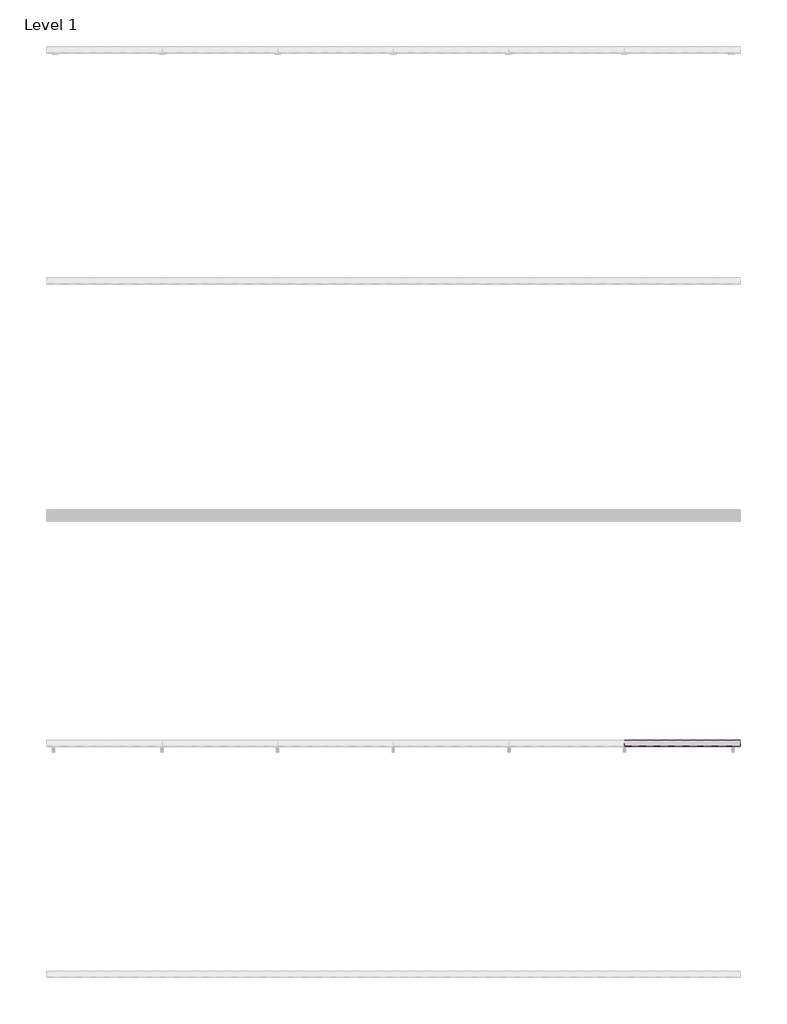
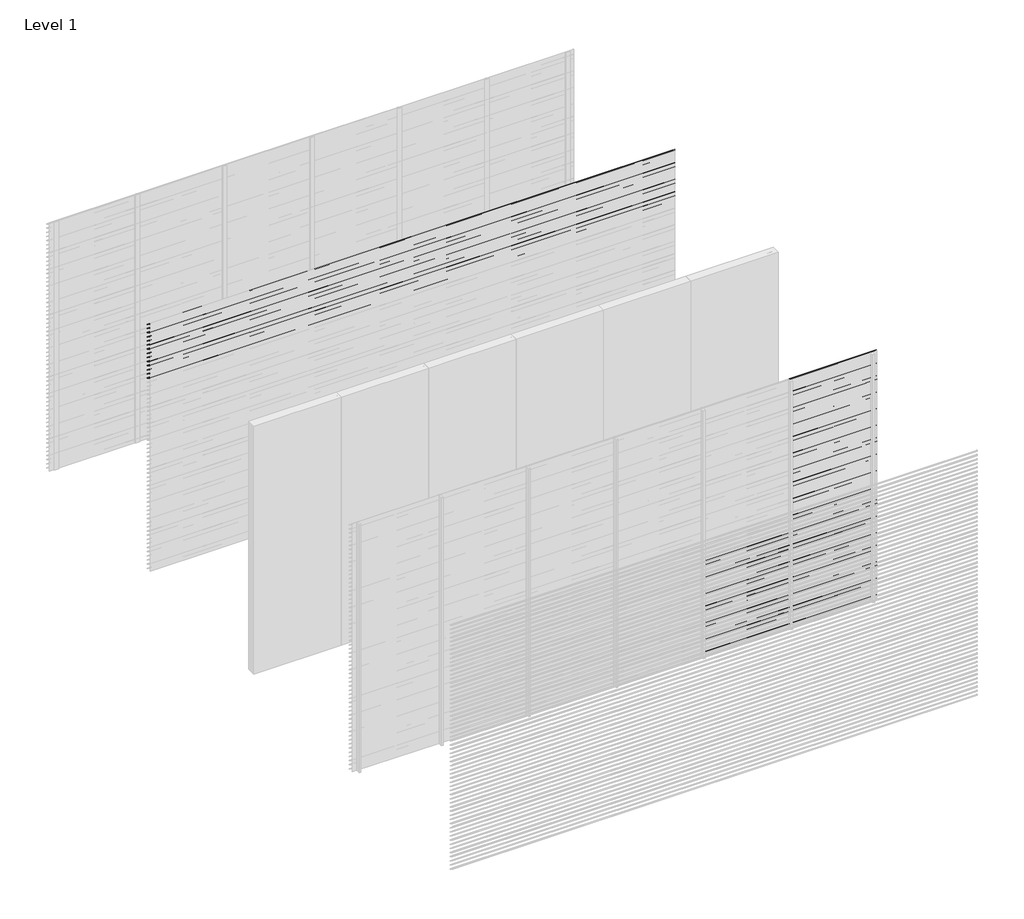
# One storey, part 14 of 18: 97 proxies.
"""IFC4 building model written with IfcOpenShell, lengths in millimetres."""

import ifcopenshell
import ifcopenshell.guid

model = None  # the IFC model being written
_history = None  # IfcOwnerHistory: only IFC2X3 demands one
_inside = {}  # id of a spatial element -> (the spatial element, [elements in it])
_under = {}  # id of a project, library or spatial element -> (it, [spatial elements below it])
_declared = {}  # id of a project -> (the project, [libraries it declares])
_typed = {}  # id of a type object -> (the type object, [elements of that type])
_made_of = {}  # id of a material, layer set ... -> (it, [elements and type objects made of it])


def new_model(schema):
    """Start an empty IFC model of exactly this schema.

    Asked for "IFC4X3", IfcOpenShell would pick the latest addendum, in which some entities
    have other attributes; the version numbers below select the first issue.
    IFC2X3 requires an IfcOwnerHistory on every rooted entity: one is made here for all.
    """
    global model, _history
    if schema == "IFC4X3":
        model = ifcopenshell.file(schema_version=(4, 3, 0, 0))
    else:
        model = ifcopenshell.file(schema=schema)
    _inside.clear()
    _under.clear()
    _declared.clear()
    _typed.clear()
    _made_of.clear()
    _history = None
    if model.schema == "IFC2X3":
        org = make("IfcOrganization", Name="unknown")
        user = make(
            "IfcPersonAndOrganization",
            ThePerson=make("IfcPerson", FamilyName="unknown"),
            TheOrganization=org,
        )
        app = make(
            "IfcApplication",
            ApplicationDeveloper=org,
            Version="unknown",
            ApplicationFullName="unknown",
            ApplicationIdentifier="unknown",
        )
        _history = make(
            "IfcOwnerHistory",
            OwningUser=user,
            OwningApplication=app,
            ChangeAction="ADDED",
            CreationDate=0,
        )
    return model


def make(cls, **values):
    """One entity of the class cls with the attributes given. An attribute that is None is left unset."""
    return model.create_entity(
        cls, **{name: value for name, value in values.items() if value is not None}
    )


def rooted(cls, **values):
    """An entity with a GlobalId (a new one), such as an element, a storey or a relation."""
    return make(cls, GlobalId=ifcopenshell.guid.new(), OwnerHistory=_history, **values)


def si_unit(unit_type, name, prefix=None):
    """IfcSIUnit, for example si_unit("LENGTHUNIT", "METRE", prefix="MILLI")."""
    return make("IfcSIUnit", UnitType=unit_type, Prefix=prefix, Name=name)


def assignment(units):
    """IfcUnitAssignment: the units of a project."""
    return None if units is None else make("IfcUnitAssignment", Units=units)


def point(xyz):
    """IfcCartesianPoint."""
    return None if xyz is None else make("IfcCartesianPoint", Coordinates=xyz)


def direction(xyz):
    """IfcDirection."""
    return None if xyz is None else make("IfcDirection", DirectionRatios=xyz)


def frame(location, z_axis=None, x_axis=None):
    """IfcAxis2Placement3D, a coordinate frame: its origin and axes. An axis left out is left unset."""
    return make(
        "IfcAxis2Placement3D",
        Location=point(location),
        Axis=direction(z_axis),
        RefDirection=direction(x_axis),
    )


def origin():
    """The frame at (0, 0, 0) with its axes left unset."""
    return frame((0.0, 0.0, 0.0))


def place(relative_to, where):
    """IfcLocalPlacement: puts the frame where relative to a parent placement (None: the world)."""
    return make(
        "IfcLocalPlacement", PlacementRelTo=relative_to, RelativePlacement=where
    )


def context(
    kind, dimensions, precision=None, world=None, true_north=None, identifier=None
):
    """IfcGeometricRepresentationContext, for example the 3D "Model" context."""
    return make(
        "IfcGeometricRepresentationContext",
        ContextIdentifier=identifier,
        ContextType=kind,
        CoordinateSpaceDimension=dimensions,
        Precision=precision,
        WorldCoordinateSystem=world,
        TrueNorth=true_north,
    )


def project(units=None, contexts=None):
    """IfcProject with its units and contexts."""
    return rooted(
        "IfcProject",
        Name="project",
        RepresentationContexts=contexts,
        UnitsInContext=assignment(units),
    )


def spatial(cls, under=None, at=None, **own):
    """A site, building, storey or space (cls), placed at a placement, below another one or the project."""
    s = rooted(cls, ObjectPlacement=at, **own)
    if under is not None:
        _under.setdefault(under.id(), (under, []))[1].append(s)
    return s


def polyline(points):
    """IfcPolyline through the points."""
    return make("IfcPolyline", Points=[point(p) for p in points])


def outline(outer, holes=None, kind="AREA"):
    """IfcArbitraryClosedProfileDef: a profile drawn as a closed curve; with holes, ...WithVoids."""
    if holes is None:
        return make("IfcArbitraryClosedProfileDef", ProfileType=kind, OuterCurve=outer)
    return make(
        "IfcArbitraryProfileDefWithVoids",
        ProfileType=kind,
        OuterCurve=outer,
        InnerCurves=holes,
    )


def extrude(swept, where, along, depth):
    """IfcExtrudedAreaSolid: the profile swept, set in the frame where, extruded along a direction by depth."""
    return make(
        "IfcExtrudedAreaSolid",
        SweptArea=swept,
        Position=where,
        ExtrudedDirection=direction(along),
        Depth=depth,
    )


def shape(context_of_items, identifier, shape_type, items):
    """IfcShapeRepresentation: the items that make up one representation, for example the "Body"."""
    return make(
        "IfcShapeRepresentation",
        ContextOfItems=context_of_items,
        RepresentationIdentifier=identifier,
        RepresentationType=shape_type,
        Items=items,
    )


def made_of(thing, what):
    """Note that an element or type object is made of a material, layer set ...; save() writes the relation."""
    if what is not None:
        _made_of.setdefault(what.id(), (what, []))[1].append(thing)
    return thing


def element(
    cls,
    number,
    at=None,
    inside=None,
    cuts=None,
    type_object=None,
    material=None,
    context=None,
    identifier="Body",
    shape_type=None,
    held_by="IfcProductDefinitionShape",
    body=None,
    shapes=None,
    **own,
):
    """One element of the class cls, such as IfcWall. Its Tag is "e" and its number.

    at: its placement. inside: the storey or other place that contains it. cuts: it is an
    opening in that element (IfcRelVoidsElement). A single representation is given by context,
    identifier, shape_type and body (its items); several are given by shapes. held_by: the class
    of the entity that holds the representations. save() writes the other relations.
    """
    e = rooted(cls, Tag="e%d" % number, ObjectPlacement=at, **own)
    if body is not None:
        shapes = [shape(context, identifier, shape_type, body)]
    if shapes is not None:
        e.Representation = make(held_by, Representations=shapes)
    if inside is not None:
        _inside.setdefault(inside.id(), (inside, []))[1].append(e)
    if cuts is not None:
        rooted(
            "IfcRelVoidsElement", RelatingBuildingElement=cuts, RelatedOpeningElement=e
        )
    if type_object is not None:
        _typed.setdefault(type_object.id(), (type_object, []))[1].append(e)
    return made_of(e, material)


def aggregate(whole, parts):
    """IfcRelAggregates: a whole, such as a stair, and the parts it consists of."""
    return rooted("IfcRelAggregates", RelatingObject=whole, RelatedObjects=parts)


def save(model, path):
    """Write the relations noted so far, then the file.

    IfcRelAggregates (storeys below a building ...), IfcRelContainedInSpatialStructure (elements
    in a storey), IfcRelDefinesByType, IfcRelAssociatesMaterial and IfcRelDeclares: one each for
    every whole, place, type object, material and project.
    """
    for whole, parts in _under.values():
        aggregate(whole, parts)
    for where, things in _inside.values():
        rooted(
            "IfcRelContainedInSpatialStructure",
            RelatedElements=things,
            RelatingStructure=where,
        )
    for kind, things in _typed.values():
        rooted("IfcRelDefinesByType", RelatedObjects=things, RelatingType=kind)
    for what, things in _made_of.values():
        rooted("IfcRelAssociatesMaterial", RelatedObjects=things, RelatingMaterial=what)
    for by, libraries in _declared.values():
        rooted("IfcRelDeclares", RelatingContext=by, RelatedDefinitions=libraries)
    model.write(path)


model = new_model("IFC4")

# Units and contexts
model_context = context("Model", 3, world=origin())
ifc_project = project(units=[si_unit("LENGTHUNIT", "METRE", prefix="MILLI")], contexts=[model_context])

# Site, building, storey
site = spatial("IfcSite", under=ifc_project)
building = spatial("IfcBuilding", under=site)
storey = spatial("IfcBuildingStorey", under=building, Name="Level 1", Elevation=0.0)

# Proxies
placement = place(None, origin())
element("IfcBuildingElementProxy", 1, Name="Wall Sweeps", at=placement, inside=storey, context=model_context, shape_type="SweptSolid", body=[
    extrude(outline(polyline([(-1995.0, 3000.0), (-1995.0, 2991.0744429), (-1943.0, 2956.0), (-1943.0, 2950.0), (-1997.0, 2986.4234599), (-1997.0, 3000.0), (-1995.0, 3000.0)])), frame((0.0, 0.0, 0.0), z_axis=(1.0, 0.0, 0.0), x_axis=(0.0, 1.0, 0.0)), (0.0, 0.0, 1.0), 6000.0),
])
element("IfcBuildingElementProxy", 2, Name="Wall Sweeps", at=placement, inside=storey, context=model_context, shape_type="SweptSolid", body=[
    extrude(outline(polyline([(-1995.0, 2950.0), (-1995.0, 2941.0744429), (-1943.0, 2906.0), (-1943.0, 2900.0), (-1997.0, 2936.4234599), (-1997.0, 2950.0), (-1995.0, 2950.0)])), frame((0.0, 0.0, 0.0), z_axis=(1.0, 0.0, 0.0), x_axis=(0.0, 1.0, 0.0)), (0.0, 0.0, 1.0), 6000.0),
])
element("IfcBuildingElementProxy", 3, Name="Wall Sweeps", at=placement, inside=storey, context=model_context, shape_type="SweptSolid", body=[
    extrude(outline(polyline([(-1995.0, 2900.0), (-1995.0, 2891.0744429), (-1943.0, 2856.0), (-1943.0, 2850.0), (-1997.0, 2886.4234599), (-1997.0, 2900.0), (-1995.0, 2900.0)])), frame((0.0, 0.0, 0.0), z_axis=(1.0, 0.0, 0.0), x_axis=(0.0, 1.0, 0.0)), (0.0, 0.0, 1.0), 6000.0),
])
element("IfcBuildingElementProxy", 4, Name="Wall Sweeps", at=placement, inside=storey, context=model_context, shape_type="SweptSolid", body=[
    extrude(outline(polyline([(-1995.0, 2850.0), (-1995.0, 2841.0744429), (-1943.0, 2806.0), (-1943.0, 2800.0), (-1997.0, 2836.4234599), (-1997.0, 2850.0), (-1995.0, 2850.0)])), frame((0.0, 0.0, 0.0), z_axis=(1.0, 0.0, 0.0), x_axis=(0.0, 1.0, 0.0)), (0.0, 0.0, 1.0), 6000.0),
])
element("IfcBuildingElementProxy", 5, Name="Wall Sweeps", at=placement, inside=storey, context=model_context, shape_type="SweptSolid", body=[
    extrude(outline(polyline([(-1995.0, 2800.0), (-1995.0, 2791.0744429), (-1943.0, 2756.0), (-1943.0, 2750.0), (-1997.0, 2786.4234599), (-1997.0, 2800.0), (-1995.0, 2800.0)])), frame((0.0, 0.0, 0.0), z_axis=(1.0, 0.0, 0.0), x_axis=(0.0, 1.0, 0.0)), (0.0, 0.0, 1.0), 6000.0),
])
element("IfcBuildingElementProxy", 6, Name="Wall Sweeps", at=placement, inside=storey, context=model_context, shape_type="SweptSolid", body=[
    extrude(outline(polyline([(-1995.0, 2750.0), (-1995.0, 2741.0744429), (-1943.0, 2706.0), (-1943.0, 2700.0), (-1997.0, 2736.4234599), (-1997.0, 2750.0), (-1995.0, 2750.0)])), frame((0.0, 0.0, 0.0), z_axis=(1.0, 0.0, 0.0), x_axis=(0.0, 1.0, 0.0)), (0.0, 0.0, 1.0), 6000.0),
])
element("IfcBuildingElementProxy", 7, Name="Wall Sweeps", at=placement, inside=storey, context=model_context, shape_type="SweptSolid", body=[
    extrude(outline(polyline([(-1995.0, 2700.0), (-1995.0, 2691.0744429), (-1943.0, 2656.0), (-1943.0, 2650.0), (-1997.0, 2686.4234599), (-1997.0, 2700.0), (-1995.0, 2700.0)])), frame((0.0, 0.0, 0.0), z_axis=(1.0, 0.0, 0.0), x_axis=(0.0, 1.0, 0.0)), (0.0, 0.0, 1.0), 6000.0),
])
element("IfcBuildingElementProxy", 8, Name="Wall Sweeps", at=placement, inside=storey, context=model_context, shape_type="SweptSolid", body=[
    extrude(outline(polyline([(-1995.0, 2650.0), (-1995.0, 2641.0744429), (-1943.0, 2606.0), (-1943.0, 2600.0), (-1997.0, 2636.4234599), (-1997.0, 2650.0), (-1995.0, 2650.0)])), frame((0.0, 0.0, 0.0), z_axis=(1.0, 0.0, 0.0), x_axis=(0.0, 1.0, 0.0)), (0.0, 0.0, 1.0), 6000.0),
])
element("IfcBuildingElementProxy", 9, Name="Wall Sweeps", at=placement, inside=storey, context=model_context, shape_type="SweptSolid", body=[
    extrude(outline(polyline([(-1995.0, 2600.0), (-1995.0, 2591.0744429), (-1943.0, 2556.0), (-1943.0, 2550.0), (-1997.0, 2586.4234599), (-1997.0, 2600.0), (-1995.0, 2600.0)])), frame((0.0, 0.0, 0.0), z_axis=(1.0, 0.0, 0.0), x_axis=(0.0, 1.0, 0.0)), (0.0, 0.0, 1.0), 6000.0),
])
element("IfcBuildingElementProxy", 10, Name="Wall Sweeps", at=placement, inside=storey, context=model_context, shape_type="SweptSolid", body=[
    extrude(outline(polyline([(-1995.0, 2550.0), (-1995.0, 2541.0744429), (-1943.0, 2506.0), (-1943.0, 2500.0), (-1997.0, 2536.4234599), (-1997.0, 2550.0), (-1995.0, 2550.0)])), frame((0.0, 0.0, 0.0), z_axis=(1.0, 0.0, 0.0), x_axis=(0.0, 1.0, 0.0)), (0.0, 0.0, 1.0), 6000.0),
])
element("IfcBuildingElementProxy", 11, Name="Wall Sweeps", at=placement, inside=storey, context=model_context, shape_type="SweptSolid", body=[
    extrude(outline(polyline([(-1995.0, 2500.0), (-1995.0, 2491.0744429), (-1943.0, 2456.0), (-1943.0, 2450.0), (-1997.0, 2486.4234599), (-1997.0, 2500.0), (-1995.0, 2500.0)])), frame((0.0, 0.0, 0.0), z_axis=(1.0, 0.0, 0.0), x_axis=(0.0, 1.0, 0.0)), (0.0, 0.0, 1.0), 6000.0),
])
element("IfcBuildingElementProxy", 12, Name="Wall Sweeps", at=placement, inside=storey, context=model_context, shape_type="SweptSolid", body=[
    extrude(outline(polyline([(-1995.0, 2450.0), (-1995.0, 2441.0744429), (-1943.0, 2406.0), (-1943.0, 2400.0), (-1997.0, 2436.4234599), (-1997.0, 2450.0), (-1995.0, 2450.0)])), frame((0.0, 0.0, 0.0), z_axis=(1.0, 0.0, 0.0), x_axis=(0.0, 1.0, 0.0)), (0.0, 0.0, 1.0), 6000.0),
])
element("IfcBuildingElementProxy", 13, Name="Wall Sweeps", at=placement, inside=storey, context=model_context, shape_type="SweptSolid", body=[
    extrude(outline(polyline([(-1995.0, 2400.0), (-1995.0, 2391.0744429), (-1943.0, 2356.0), (-1943.0, 2350.0), (-1997.0, 2386.4234599), (-1997.0, 2400.0), (-1995.0, 2400.0)])), frame((0.0, 0.0, 0.0), z_axis=(1.0, 0.0, 0.0), x_axis=(0.0, 1.0, 0.0)), (0.0, 0.0, 1.0), 6000.0),
])
element("IfcBuildingElementProxy", 14, Name="Wall Sweeps", at=placement, inside=storey, context=model_context, shape_type="SweptSolid", body=[
    extrude(outline(polyline([(-1995.0, 2350.0), (-1995.0, 2341.0744429), (-1943.0, 2306.0), (-1943.0, 2300.0), (-1997.0, 2336.4234599), (-1997.0, 2350.0), (-1995.0, 2350.0)])), frame((0.0, 0.0, 0.0), z_axis=(1.0, 0.0, 0.0), x_axis=(0.0, 1.0, 0.0)), (0.0, 0.0, 1.0), 6000.0),
])
element("IfcBuildingElementProxy", 15, Name="Wall Sweeps", at=placement, inside=storey, context=model_context, shape_type="SweptSolid", body=[
    extrude(outline(polyline([(-5995.0, 1150.0), (-5995.0, 1141.0744429), (-5943.0, 1106.0), (-5943.0, 1100.0), (-5997.0, 1136.4234599), (-5997.0, 1150.0), (-5995.0, 1150.0)])), frame((4000.0, 0.0, 0.0), z_axis=(1.0, 0.0, 0.0), x_axis=(0.0, 1.0, 0.0)), (0.0, 0.0, 1.0), 1000.0),
])
element("IfcBuildingElementProxy", 16, Name="Wall Sweeps", at=placement, inside=storey, context=model_context, shape_type="SweptSolid", body=[
    extrude(outline(polyline([(-5995.0, 1100.0), (-5995.0, 1091.0744429), (-5943.0, 1056.0), (-5943.0, 1050.0), (-5997.0, 1086.4234599), (-5997.0, 1100.0), (-5995.0, 1100.0)])), frame((4000.0, 0.0, 0.0), z_axis=(1.0, 0.0, 0.0), x_axis=(0.0, 1.0, 0.0)), (0.0, 0.0, 1.0), 1000.0),
])
element("IfcBuildingElementProxy", 17, Name="Wall Sweeps", at=placement, inside=storey, context=model_context, shape_type="SweptSolid", body=[
    extrude(outline(polyline([(-5995.0, 1050.0), (-5995.0, 1041.0744429), (-5943.0, 1006.0), (-5943.0, 1000.0), (-5997.0, 1036.4234599), (-5997.0, 1050.0), (-5995.0, 1050.0)])), frame((4000.0, 0.0, 0.0), z_axis=(1.0, 0.0, 0.0), x_axis=(0.0, 1.0, 0.0)), (0.0, 0.0, 1.0), 1000.0),
])
element("IfcBuildingElementProxy", 18, Name="Wall Sweeps", at=placement, inside=storey, context=model_context, shape_type="SweptSolid", body=[
    extrude(outline(polyline([(-5995.0, 1000.0), (-5995.0, 991.0744429), (-5943.0, 956.0), (-5943.0, 950.0), (-5997.0, 986.4234599), (-5997.0, 1000.0), (-5995.0, 1000.0)])), frame((4000.0, 0.0, 0.0), z_axis=(1.0, 0.0, 0.0), x_axis=(0.0, 1.0, 0.0)), (0.0, 0.0, 1.0), 1000.0),
])
element("IfcBuildingElementProxy", 19, Name="Wall Sweeps", at=placement, inside=storey, context=model_context, shape_type="SweptSolid", body=[
    extrude(outline(polyline([(-5995.0, 950.0), (-5995.0, 941.0744429), (-5943.0, 906.0), (-5943.0, 900.0), (-5997.0, 936.4234599), (-5997.0, 950.0), (-5995.0, 950.0)])), frame((4000.0, 0.0, 0.0), z_axis=(1.0, 0.0, 0.0), x_axis=(0.0, 1.0, 0.0)), (0.0, 0.0, 1.0), 1000.0),
])
element("IfcBuildingElementProxy", 20, Name="Wall Sweeps", at=placement, inside=storey, context=model_context, shape_type="SweptSolid", body=[
    extrude(outline(polyline([(-5995.0, 900.0), (-5995.0, 891.0744429), (-5943.0, 856.0), (-5943.0, 850.0), (-5997.0, 886.4234599), (-5997.0, 900.0), (-5995.0, 900.0)])), frame((4000.0, 0.0, 0.0), z_axis=(1.0, 0.0, 0.0), x_axis=(0.0, 1.0, 0.0)), (0.0, 0.0, 1.0), 1000.0),
])
element("IfcBuildingElementProxy", 21, Name="Wall Sweeps", at=placement, inside=storey, context=model_context, shape_type="SweptSolid", body=[
    extrude(outline(polyline([(-5995.0, 850.0), (-5995.0, 841.0744429), (-5943.0, 806.0), (-5943.0, 800.0), (-5997.0, 836.4234599), (-5997.0, 850.0), (-5995.0, 850.0)])), frame((4000.0, 0.0, 0.0), z_axis=(1.0, 0.0, 0.0), x_axis=(0.0, 1.0, 0.0)), (0.0, 0.0, 1.0), 1000.0),
])
element("IfcBuildingElementProxy", 22, Name="Wall Sweeps", at=placement, inside=storey, context=model_context, shape_type="SweptSolid", body=[
    extrude(outline(polyline([(-5995.0, 800.0), (-5995.0, 791.0744429), (-5943.0, 756.0), (-5943.0, 750.0), (-5997.0, 786.4234599), (-5997.0, 800.0), (-5995.0, 800.0)])), frame((4000.0, 0.0, 0.0), z_axis=(1.0, 0.0, 0.0), x_axis=(0.0, 1.0, 0.0)), (0.0, 0.0, 1.0), 1000.0),
])
element("IfcBuildingElementProxy", 23, Name="Wall Sweeps", at=placement, inside=storey, context=model_context, shape_type="SweptSolid", body=[
    extrude(outline(polyline([(-5995.0, 750.0), (-5995.0, 741.0744429), (-5943.0, 706.0), (-5943.0, 700.0), (-5997.0, 736.4234599), (-5997.0, 750.0), (-5995.0, 750.0)])), frame((4000.0, 0.0, 0.0), z_axis=(1.0, 0.0, 0.0), x_axis=(0.0, 1.0, 0.0)), (0.0, 0.0, 1.0), 1000.0),
])
element("IfcBuildingElementProxy", 24, Name="Wall Sweeps", at=placement, inside=storey, context=model_context, shape_type="SweptSolid", body=[
    extrude(outline(polyline([(-5995.0, 700.0), (-5995.0, 691.0744429), (-5943.0, 656.0), (-5943.0, 650.0), (-5997.0, 686.4234599), (-5997.0, 700.0), (-5995.0, 700.0)])), frame((4000.0, 0.0, 0.0), z_axis=(1.0, 0.0, 0.0), x_axis=(0.0, 1.0, 0.0)), (0.0, 0.0, 1.0), 1000.0),
])
element("IfcBuildingElementProxy", 25, Name="Wall Sweeps", at=placement, inside=storey, context=model_context, shape_type="SweptSolid", body=[
    extrude(outline(polyline([(-5995.0, 650.0), (-5995.0, 641.0744429), (-5943.0, 606.0), (-5943.0, 600.0), (-5997.0, 636.4234599), (-5997.0, 650.0), (-5995.0, 650.0)])), frame((4000.0, 0.0, 0.0), z_axis=(1.0, 0.0, 0.0), x_axis=(0.0, 1.0, 0.0)), (0.0, 0.0, 1.0), 1000.0),
])
element("IfcBuildingElementProxy", 26, Name="Wall Sweeps", at=placement, inside=storey, context=model_context, shape_type="SweptSolid", body=[
    extrude(outline(polyline([(-5995.0, 600.0), (-5995.0, 591.0744429), (-5943.0, 556.0), (-5943.0, 550.0), (-5997.0, 586.4234599), (-5997.0, 600.0), (-5995.0, 600.0)])), frame((4000.0, 0.0, 0.0), z_axis=(1.0, 0.0, 0.0), x_axis=(0.0, 1.0, 0.0)), (0.0, 0.0, 1.0), 1000.0),
])
element("IfcBuildingElementProxy", 27, Name="Wall Sweeps", at=placement, inside=storey, context=model_context, shape_type="SweptSolid", body=[
    extrude(outline(polyline([(-5995.0, 550.0), (-5995.0, 541.0744429), (-5943.0, 506.0), (-5943.0, 500.0), (-5997.0, 536.4234599), (-5997.0, 550.0), (-5995.0, 550.0)])), frame((4000.0, 0.0, 0.0), z_axis=(1.0, 0.0, 0.0), x_axis=(0.0, 1.0, 0.0)), (0.0, 0.0, 1.0), 1000.0),
])
element("IfcBuildingElementProxy", 28, Name="Wall Sweeps", at=placement, inside=storey, context=model_context, shape_type="SweptSolid", body=[
    extrude(outline(polyline([(-5995.0, 500.0), (-5995.0, 491.0744429), (-5943.0, 456.0), (-5943.0, 450.0), (-5997.0, 486.4234599), (-5997.0, 500.0), (-5995.0, 500.0)])), frame((4000.0, 0.0, 0.0), z_axis=(1.0, 0.0, 0.0), x_axis=(0.0, 1.0, 0.0)), (0.0, 0.0, 1.0), 1000.0),
])
element("IfcBuildingElementProxy", 29, Name="Wall Sweeps", at=placement, inside=storey, context=model_context, shape_type="SweptSolid", body=[
    extrude(outline(polyline([(-5995.0, 450.0), (-5995.0, 441.0744429), (-5943.0, 406.0), (-5943.0, 400.0), (-5997.0, 436.4234599), (-5997.0, 450.0), (-5995.0, 450.0)])), frame((4000.0, 0.0, 0.0), z_axis=(1.0, 0.0, 0.0), x_axis=(0.0, 1.0, 0.0)), (0.0, 0.0, 1.0), 1000.0),
])
element("IfcBuildingElementProxy", 30, Name="Wall Sweeps", at=placement, inside=storey, context=model_context, shape_type="SweptSolid", body=[
    extrude(outline(polyline([(-5995.0, 400.0), (-5995.0, 391.0744429), (-5943.0, 356.0), (-5943.0, 350.0), (-5997.0, 386.4234599), (-5997.0, 400.0), (-5995.0, 400.0)])), frame((4000.0, 0.0, 0.0), z_axis=(1.0, 0.0, 0.0), x_axis=(0.0, 1.0, 0.0)), (0.0, 0.0, 1.0), 1000.0),
])
element("IfcBuildingElementProxy", 31, Name="Wall Sweeps", at=placement, inside=storey, context=model_context, shape_type="SweptSolid", body=[
    extrude(outline(polyline([(-5995.0, 350.0), (-5995.0, 341.0744429), (-5943.0, 306.0), (-5943.0, 300.0), (-5997.0, 336.4234599), (-5997.0, 350.0), (-5995.0, 350.0)])), frame((4000.0, 0.0, 0.0), z_axis=(1.0, 0.0, 0.0), x_axis=(0.0, 1.0, 0.0)), (0.0, 0.0, 1.0), 1000.0),
])
element("IfcBuildingElementProxy", 32, Name="Wall Sweeps", at=placement, inside=storey, context=model_context, shape_type="SweptSolid", body=[
    extrude(outline(polyline([(-5995.0, 300.0), (-5995.0, 291.0744429), (-5943.0, 256.0), (-5943.0, 250.0), (-5997.0, 286.4234599), (-5997.0, 300.0), (-5995.0, 300.0)])), frame((4000.0, 0.0, 0.0), z_axis=(1.0, 0.0, 0.0), x_axis=(0.0, 1.0, 0.0)), (0.0, 0.0, 1.0), 1000.0),
])
element("IfcBuildingElementProxy", 33, Name="Wall Sweeps", at=placement, inside=storey, context=model_context, shape_type="SweptSolid", body=[
    extrude(outline(polyline([(-5995.0, 250.0), (-5995.0, 241.0744429), (-5943.0, 206.0), (-5943.0, 200.0), (-5997.0, 236.4234599), (-5997.0, 250.0), (-5995.0, 250.0)])), frame((4000.0, 0.0, 0.0), z_axis=(1.0, 0.0, 0.0), x_axis=(0.0, 1.0, 0.0)), (0.0, 0.0, 1.0), 1000.0),
])
element("IfcBuildingElementProxy", 34, Name="Wall Sweeps", at=placement, inside=storey, context=model_context, shape_type="SweptSolid", body=[
    extrude(outline(polyline([(-5995.0, 200.0), (-5995.0, 191.0744429), (-5943.0, 156.0), (-5943.0, 150.0), (-5997.0, 186.4234599), (-5997.0, 200.0), (-5995.0, 200.0)])), frame((4000.0, 0.0, 0.0), z_axis=(1.0, 0.0, 0.0), x_axis=(0.0, 1.0, 0.0)), (0.0, 0.0, 1.0), 1000.0),
])
element("IfcBuildingElementProxy", 35, Name="Wall Sweeps", at=placement, inside=storey, context=model_context, shape_type="SweptSolid", body=[
    extrude(outline(polyline([(-5995.0, 150.0), (-5995.0, 141.0744429), (-5943.0, 106.0), (-5943.0, 100.0), (-5997.0, 136.4234599), (-5997.0, 150.0), (-5995.0, 150.0)])), frame((4000.0, 0.0, 0.0), z_axis=(1.0, 0.0, 0.0), x_axis=(0.0, 1.0, 0.0)), (0.0, 0.0, 1.0), 1000.0),
])
element("IfcBuildingElementProxy", 36, Name="Wall Sweeps", at=placement, inside=storey, context=model_context, shape_type="SweptSolid", body=[
    extrude(outline(polyline([(-5995.0, 100.0), (-5995.0, 91.0744429), (-5943.0, 56.0), (-5943.0, 50.0), (-5997.0, 86.4234599), (-5997.0, 100.0), (-5995.0, 100.0)])), frame((4000.0, 0.0, 0.0), z_axis=(1.0, 0.0, 0.0), x_axis=(0.0, 1.0, 0.0)), (0.0, 0.0, 1.0), 1000.0),
])
element("IfcBuildingElementProxy", 37, Name="Wall Sweeps", at=placement, inside=storey, context=model_context, shape_type="SweptSolid", body=[
    extrude(outline(polyline([(-5995.0, 50.0), (-5995.0, 41.0744429), (-5943.0, 6.0), (-5943.0, 0.0), (-5997.0, 36.4234599), (-5997.0, 50.0), (-5995.0, 50.0)])), frame((4000.0, 0.0, 0.0), z_axis=(1.0, 0.0, 0.0), x_axis=(0.0, 1.0, 0.0)), (0.0, 0.0, 1.0), 1000.0),
])
element("IfcBuildingElementProxy", 38, Name="Wall Sweeps", at=placement, inside=storey, context=model_context, shape_type="SweptSolid", body=[
    extrude(outline(polyline([(-5995.0, 3000.0), (-5995.0, 2991.0744429), (-5943.0, 2956.0), (-5943.0, 2950.0), (-5997.0, 2986.4234599), (-5997.0, 3000.0), (-5995.0, 3000.0)])), frame((5000.0, 0.0, 0.0), z_axis=(1.0, 0.0, 0.0), x_axis=(0.0, 1.0, 0.0)), (0.0, 0.0, 1.0), 1000.0),
])
element("IfcBuildingElementProxy", 39, Name="Wall Sweeps", at=placement, inside=storey, context=model_context, shape_type="SweptSolid", body=[
    extrude(outline(polyline([(-5995.0, 2950.0), (-5995.0, 2941.0744429), (-5943.0, 2906.0), (-5943.0, 2900.0), (-5997.0, 2936.4234599), (-5997.0, 2950.0), (-5995.0, 2950.0)])), frame((5000.0, 0.0, 0.0), z_axis=(1.0, 0.0, 0.0), x_axis=(0.0, 1.0, 0.0)), (0.0, 0.0, 1.0), 1000.0),
])
element("IfcBuildingElementProxy", 40, Name="Wall Sweeps", at=placement, inside=storey, context=model_context, shape_type="SweptSolid", body=[
    extrude(outline(polyline([(-5995.0, 2900.0), (-5995.0, 2891.0744429), (-5943.0, 2856.0), (-5943.0, 2850.0), (-5997.0, 2886.4234599), (-5997.0, 2900.0), (-5995.0, 2900.0)])), frame((5000.0, 0.0, 0.0), z_axis=(1.0, 0.0, 0.0), x_axis=(0.0, 1.0, 0.0)), (0.0, 0.0, 1.0), 1000.0),
])
element("IfcBuildingElementProxy", 41, Name="Wall Sweeps", at=placement, inside=storey, context=model_context, shape_type="SweptSolid", body=[
    extrude(outline(polyline([(-5995.0, 2850.0), (-5995.0, 2841.0744429), (-5943.0, 2806.0), (-5943.0, 2800.0), (-5997.0, 2836.4234599), (-5997.0, 2850.0), (-5995.0, 2850.0)])), frame((5000.0, 0.0, 0.0), z_axis=(1.0, 0.0, 0.0), x_axis=(0.0, 1.0, 0.0)), (0.0, 0.0, 1.0), 1000.0),
])
element("IfcBuildingElementProxy", 42, Name="Wall Sweeps", at=placement, inside=storey, context=model_context, shape_type="SweptSolid", body=[
    extrude(outline(polyline([(-5995.0, 2800.0), (-5995.0, 2791.0744429), (-5943.0, 2756.0), (-5943.0, 2750.0), (-5997.0, 2786.4234599), (-5997.0, 2800.0), (-5995.0, 2800.0)])), frame((5000.0, 0.0, 0.0), z_axis=(1.0, 0.0, 0.0), x_axis=(0.0, 1.0, 0.0)), (0.0, 0.0, 1.0), 1000.0),
])
element("IfcBuildingElementProxy", 43, Name="Wall Sweeps", at=placement, inside=storey, context=model_context, shape_type="SweptSolid", body=[
    extrude(outline(polyline([(-5995.0, 2750.0), (-5995.0, 2741.0744429), (-5943.0, 2706.0), (-5943.0, 2700.0), (-5997.0, 2736.4234599), (-5997.0, 2750.0), (-5995.0, 2750.0)])), frame((5000.0, 0.0, 0.0), z_axis=(1.0, 0.0, 0.0), x_axis=(0.0, 1.0, 0.0)), (0.0, 0.0, 1.0), 1000.0),
])
element("IfcBuildingElementProxy", 44, Name="Wall Sweeps", at=placement, inside=storey, context=model_context, shape_type="SweptSolid", body=[
    extrude(outline(polyline([(-5995.0, 2700.0), (-5995.0, 2691.0744429), (-5943.0, 2656.0), (-5943.0, 2650.0), (-5997.0, 2686.4234599), (-5997.0, 2700.0), (-5995.0, 2700.0)])), frame((5000.0, 0.0, 0.0), z_axis=(1.0, 0.0, 0.0), x_axis=(0.0, 1.0, 0.0)), (0.0, 0.0, 1.0), 1000.0),
])
element("IfcBuildingElementProxy", 45, Name="Wall Sweeps", at=placement, inside=storey, context=model_context, shape_type="SweptSolid", body=[
    extrude(outline(polyline([(-5995.0, 2650.0), (-5995.0, 2641.0744429), (-5943.0, 2606.0), (-5943.0, 2600.0), (-5997.0, 2636.4234599), (-5997.0, 2650.0), (-5995.0, 2650.0)])), frame((5000.0, 0.0, 0.0), z_axis=(1.0, 0.0, 0.0), x_axis=(0.0, 1.0, 0.0)), (0.0, 0.0, 1.0), 1000.0),
])
element("IfcBuildingElementProxy", 46, Name="Wall Sweeps", at=placement, inside=storey, context=model_context, shape_type="SweptSolid", body=[
    extrude(outline(polyline([(-5995.0, 2600.0), (-5995.0, 2591.0744429), (-5943.0, 2556.0), (-5943.0, 2550.0), (-5997.0, 2586.4234599), (-5997.0, 2600.0), (-5995.0, 2600.0)])), frame((5000.0, 0.0, 0.0), z_axis=(1.0, 0.0, 0.0), x_axis=(0.0, 1.0, 0.0)), (0.0, 0.0, 1.0), 1000.0),
])
element("IfcBuildingElementProxy", 47, Name="Wall Sweeps", at=placement, inside=storey, context=model_context, shape_type="SweptSolid", body=[
    extrude(outline(polyline([(-5995.0, 2550.0), (-5995.0, 2541.0744429), (-5943.0, 2506.0), (-5943.0, 2500.0), (-5997.0, 2536.4234599), (-5997.0, 2550.0), (-5995.0, 2550.0)])), frame((5000.0, 0.0, 0.0), z_axis=(1.0, 0.0, 0.0), x_axis=(0.0, 1.0, 0.0)), (0.0, 0.0, 1.0), 1000.0),
])
element("IfcBuildingElementProxy", 48, Name="Wall Sweeps", at=placement, inside=storey, context=model_context, shape_type="SweptSolid", body=[
    extrude(outline(polyline([(-5995.0, 2500.0), (-5995.0, 2491.0744429), (-5943.0, 2456.0), (-5943.0, 2450.0), (-5997.0, 2486.4234599), (-5997.0, 2500.0), (-5995.0, 2500.0)])), frame((5000.0, 0.0, 0.0), z_axis=(1.0, 0.0, 0.0), x_axis=(0.0, 1.0, 0.0)), (0.0, 0.0, 1.0), 1000.0),
])
element("IfcBuildingElementProxy", 49, Name="Wall Sweeps", at=placement, inside=storey, context=model_context, shape_type="SweptSolid", body=[
    extrude(outline(polyline([(-5995.0, 2450.0), (-5995.0, 2441.0744429), (-5943.0, 2406.0), (-5943.0, 2400.0), (-5997.0, 2436.4234599), (-5997.0, 2450.0), (-5995.0, 2450.0)])), frame((5000.0, 0.0, 0.0), z_axis=(1.0, 0.0, 0.0), x_axis=(0.0, 1.0, 0.0)), (0.0, 0.0, 1.0), 1000.0),
])
element("IfcBuildingElementProxy", 50, Name="Wall Sweeps", at=placement, inside=storey, context=model_context, shape_type="SweptSolid", body=[
    extrude(outline(polyline([(-5995.0, 2400.0), (-5995.0, 2391.0744429), (-5943.0, 2356.0), (-5943.0, 2350.0), (-5997.0, 2386.4234599), (-5997.0, 2400.0), (-5995.0, 2400.0)])), frame((5000.0, 0.0, 0.0), z_axis=(1.0, 0.0, 0.0), x_axis=(0.0, 1.0, 0.0)), (0.0, 0.0, 1.0), 1000.0),
])
element("IfcBuildingElementProxy", 51, Name="Wall Sweeps", at=placement, inside=storey, context=model_context, shape_type="SweptSolid", body=[
    extrude(outline(polyline([(-5995.0, 2350.0), (-5995.0, 2341.0744429), (-5943.0, 2306.0), (-5943.0, 2300.0), (-5997.0, 2336.4234599), (-5997.0, 2350.0), (-5995.0, 2350.0)])), frame((5000.0, 0.0, 0.0), z_axis=(1.0, 0.0, 0.0), x_axis=(0.0, 1.0, 0.0)), (0.0, 0.0, 1.0), 1000.0),
])
element("IfcBuildingElementProxy", 52, Name="Wall Sweeps", at=placement, inside=storey, context=model_context, shape_type="SweptSolid", body=[
    extrude(outline(polyline([(-5995.0, 2300.0), (-5995.0, 2291.0744429), (-5943.0, 2256.0), (-5943.0, 2250.0), (-5997.0, 2286.4234599), (-5997.0, 2300.0), (-5995.0, 2300.0)])), frame((5000.0, 0.0, 0.0), z_axis=(1.0, 0.0, 0.0), x_axis=(0.0, 1.0, 0.0)), (0.0, 0.0, 1.0), 1000.0),
])
element("IfcBuildingElementProxy", 53, Name="Wall Sweeps", at=placement, inside=storey, context=model_context, shape_type="SweptSolid", body=[
    extrude(outline(polyline([(-5995.0, 2250.0), (-5995.0, 2241.0744429), (-5943.0, 2206.0), (-5943.0, 2200.0), (-5997.0, 2236.4234599), (-5997.0, 2250.0), (-5995.0, 2250.0)])), frame((5000.0, 0.0, 0.0), z_axis=(1.0, 0.0, 0.0), x_axis=(0.0, 1.0, 0.0)), (0.0, 0.0, 1.0), 1000.0),
])
element("IfcBuildingElementProxy", 54, Name="Wall Sweeps", at=placement, inside=storey, context=model_context, shape_type="SweptSolid", body=[
    extrude(outline(polyline([(-5995.0, 2200.0), (-5995.0, 2191.0744429), (-5943.0, 2156.0), (-5943.0, 2150.0), (-5997.0, 2186.4234599), (-5997.0, 2200.0), (-5995.0, 2200.0)])), frame((5000.0, 0.0, 0.0), z_axis=(1.0, 0.0, 0.0), x_axis=(0.0, 1.0, 0.0)), (0.0, 0.0, 1.0), 1000.0),
])
element("IfcBuildingElementProxy", 55, Name="Wall Sweeps", at=placement, inside=storey, context=model_context, shape_type="SweptSolid", body=[
    extrude(outline(polyline([(-5995.0, 2150.0), (-5995.0, 2141.0744429), (-5943.0, 2106.0), (-5943.0, 2100.0), (-5997.0, 2136.4234599), (-5997.0, 2150.0), (-5995.0, 2150.0)])), frame((5000.0, 0.0, 0.0), z_axis=(1.0, 0.0, 0.0), x_axis=(0.0, 1.0, 0.0)), (0.0, 0.0, 1.0), 1000.0),
])
element("IfcBuildingElementProxy", 56, Name="Wall Sweeps", at=placement, inside=storey, context=model_context, shape_type="SweptSolid", body=[
    extrude(outline(polyline([(-5995.0, 2100.0), (-5995.0, 2091.0744429), (-5943.0, 2056.0), (-5943.0, 2050.0), (-5997.0, 2086.4234599), (-5997.0, 2100.0), (-5995.0, 2100.0)])), frame((5000.0, 0.0, 0.0), z_axis=(1.0, 0.0, 0.0), x_axis=(0.0, 1.0, 0.0)), (0.0, 0.0, 1.0), 1000.0),
])
element("IfcBuildingElementProxy", 57, Name="Wall Sweeps", at=placement, inside=storey, context=model_context, shape_type="SweptSolid", body=[
    extrude(outline(polyline([(-5995.0, 2050.0), (-5995.0, 2041.0744429), (-5943.0, 2006.0), (-5943.0, 2000.0), (-5997.0, 2036.4234599), (-5997.0, 2050.0), (-5995.0, 2050.0)])), frame((5000.0, 0.0, 0.0), z_axis=(1.0, 0.0, 0.0), x_axis=(0.0, 1.0, 0.0)), (0.0, 0.0, 1.0), 1000.0),
])
element("IfcBuildingElementProxy", 58, Name="Wall Sweeps", at=placement, inside=storey, context=model_context, shape_type="SweptSolid", body=[
    extrude(outline(polyline([(-5995.0, 2000.0), (-5995.0, 1991.0744429), (-5943.0, 1956.0), (-5943.0, 1950.0), (-5997.0, 1986.4234599), (-5997.0, 2000.0), (-5995.0, 2000.0)])), frame((5000.0, 0.0, 0.0), z_axis=(1.0, 0.0, 0.0), x_axis=(0.0, 1.0, 0.0)), (0.0, 0.0, 1.0), 1000.0),
])
element("IfcBuildingElementProxy", 59, Name="Wall Sweeps", at=placement, inside=storey, context=model_context, shape_type="SweptSolid", body=[
    extrude(outline(polyline([(-5995.0, 1950.0), (-5995.0, 1941.0744429), (-5943.0, 1906.0), (-5943.0, 1900.0), (-5997.0, 1936.4234599), (-5997.0, 1950.0), (-5995.0, 1950.0)])), frame((5000.0, 0.0, 0.0), z_axis=(1.0, 0.0, 0.0), x_axis=(0.0, 1.0, 0.0)), (0.0, 0.0, 1.0), 1000.0),
])
element("IfcBuildingElementProxy", 60, Name="Wall Sweeps", at=placement, inside=storey, context=model_context, shape_type="SweptSolid", body=[
    extrude(outline(polyline([(-5995.0, 1900.0), (-5995.0, 1891.0744429), (-5943.0, 1856.0), (-5943.0, 1850.0), (-5997.0, 1886.4234599), (-5997.0, 1900.0), (-5995.0, 1900.0)])), frame((5000.0, 0.0, 0.0), z_axis=(1.0, 0.0, 0.0), x_axis=(0.0, 1.0, 0.0)), (0.0, 0.0, 1.0), 1000.0),
])
element("IfcBuildingElementProxy", 61, Name="Wall Sweeps", at=placement, inside=storey, context=model_context, shape_type="SweptSolid", body=[
    extrude(outline(polyline([(-5995.0, 1850.0), (-5995.0, 1841.0744429), (-5943.0, 1806.0), (-5943.0, 1800.0), (-5997.0, 1836.4234599), (-5997.0, 1850.0), (-5995.0, 1850.0)])), frame((5000.0, 0.0, 0.0), z_axis=(1.0, 0.0, 0.0), x_axis=(0.0, 1.0, 0.0)), (0.0, 0.0, 1.0), 1000.0),
])
element("IfcBuildingElementProxy", 62, Name="Wall Sweeps", at=placement, inside=storey, context=model_context, shape_type="SweptSolid", body=[
    extrude(outline(polyline([(-5995.0, 1800.0), (-5995.0, 1791.0744429), (-5943.0, 1756.0), (-5943.0, 1750.0), (-5997.0, 1786.4234599), (-5997.0, 1800.0), (-5995.0, 1800.0)])), frame((5000.0, 0.0, 0.0), z_axis=(1.0, 0.0, 0.0), x_axis=(0.0, 1.0, 0.0)), (0.0, 0.0, 1.0), 1000.0),
])
element("IfcBuildingElementProxy", 63, Name="Wall Sweeps", at=placement, inside=storey, context=model_context, shape_type="SweptSolid", body=[
    extrude(outline(polyline([(-5995.0, 1750.0), (-5995.0, 1741.0744429), (-5943.0, 1706.0), (-5943.0, 1700.0), (-5997.0, 1736.4234599), (-5997.0, 1750.0), (-5995.0, 1750.0)])), frame((5000.0, 0.0, 0.0), z_axis=(1.0, 0.0, 0.0), x_axis=(0.0, 1.0, 0.0)), (0.0, 0.0, 1.0), 1000.0),
])
element("IfcBuildingElementProxy", 64, Name="Wall Sweeps", at=placement, inside=storey, context=model_context, shape_type="SweptSolid", body=[
    extrude(outline(polyline([(-5995.0, 1700.0), (-5995.0, 1691.0744429), (-5943.0, 1656.0), (-5943.0, 1650.0), (-5997.0, 1686.4234599), (-5997.0, 1700.0), (-5995.0, 1700.0)])), frame((5000.0, 0.0, 0.0), z_axis=(1.0, 0.0, 0.0), x_axis=(0.0, 1.0, 0.0)), (0.0, 0.0, 1.0), 1000.0),
])
element("IfcBuildingElementProxy", 65, Name="Wall Sweeps", at=placement, inside=storey, context=model_context, shape_type="SweptSolid", body=[
    extrude(outline(polyline([(-5995.0, 1650.0), (-5995.0, 1641.0744429), (-5943.0, 1606.0), (-5943.0, 1600.0), (-5997.0, 1636.4234599), (-5997.0, 1650.0), (-5995.0, 1650.0)])), frame((5000.0, 0.0, 0.0), z_axis=(1.0, 0.0, 0.0), x_axis=(0.0, 1.0, 0.0)), (0.0, 0.0, 1.0), 1000.0),
])
element("IfcBuildingElementProxy", 66, Name="Wall Sweeps", at=placement, inside=storey, context=model_context, shape_type="SweptSolid", body=[
    extrude(outline(polyline([(-5995.0, 1600.0), (-5995.0, 1591.0744429), (-5943.0, 1556.0), (-5943.0, 1550.0), (-5997.0, 1586.4234599), (-5997.0, 1600.0), (-5995.0, 1600.0)])), frame((5000.0, 0.0, 0.0), z_axis=(1.0, 0.0, 0.0), x_axis=(0.0, 1.0, 0.0)), (0.0, 0.0, 1.0), 1000.0),
])
element("IfcBuildingElementProxy", 67, Name="Wall Sweeps", at=placement, inside=storey, context=model_context, shape_type="SweptSolid", body=[
    extrude(outline(polyline([(-5995.0, 1550.0), (-5995.0, 1541.0744429), (-5943.0, 1506.0), (-5943.0, 1500.0), (-5997.0, 1536.4234599), (-5997.0, 1550.0), (-5995.0, 1550.0)])), frame((5000.0, 0.0, 0.0), z_axis=(1.0, 0.0, 0.0), x_axis=(0.0, 1.0, 0.0)), (0.0, 0.0, 1.0), 1000.0),
])
element("IfcBuildingElementProxy", 68, Name="Wall Sweeps", at=placement, inside=storey, context=model_context, shape_type="SweptSolid", body=[
    extrude(outline(polyline([(-5995.0, 1500.0), (-5995.0, 1491.0744429), (-5943.0, 1456.0), (-5943.0, 1450.0), (-5997.0, 1486.4234599), (-5997.0, 1500.0), (-5995.0, 1500.0)])), frame((5000.0, 0.0, 0.0), z_axis=(1.0, 0.0, 0.0), x_axis=(0.0, 1.0, 0.0)), (0.0, 0.0, 1.0), 1000.0),
])
element("IfcBuildingElementProxy", 69, Name="Wall Sweeps", at=placement, inside=storey, context=model_context, shape_type="SweptSolid", body=[
    extrude(outline(polyline([(-5995.0, 1450.0), (-5995.0, 1441.0744429), (-5943.0, 1406.0), (-5943.0, 1400.0), (-5997.0, 1436.4234599), (-5997.0, 1450.0), (-5995.0, 1450.0)])), frame((5000.0, 0.0, 0.0), z_axis=(1.0, 0.0, 0.0), x_axis=(0.0, 1.0, 0.0)), (0.0, 0.0, 1.0), 1000.0),
])
element("IfcBuildingElementProxy", 70, Name="Wall Sweeps", at=placement, inside=storey, context=model_context, shape_type="SweptSolid", body=[
    extrude(outline(polyline([(-5995.0, 1400.0), (-5995.0, 1391.0744429), (-5943.0, 1356.0), (-5943.0, 1350.0), (-5997.0, 1386.4234599), (-5997.0, 1400.0), (-5995.0, 1400.0)])), frame((5000.0, 0.0, 0.0), z_axis=(1.0, 0.0, 0.0), x_axis=(0.0, 1.0, 0.0)), (0.0, 0.0, 1.0), 1000.0),
])
element("IfcBuildingElementProxy", 71, Name="Wall Sweeps", at=placement, inside=storey, context=model_context, shape_type="SweptSolid", body=[
    extrude(outline(polyline([(-5995.0, 1350.0), (-5995.0, 1341.0744429), (-5943.0, 1306.0), (-5943.0, 1300.0), (-5997.0, 1336.4234599), (-5997.0, 1350.0), (-5995.0, 1350.0)])), frame((5000.0, 0.0, 0.0), z_axis=(1.0, 0.0, 0.0), x_axis=(0.0, 1.0, 0.0)), (0.0, 0.0, 1.0), 1000.0),
])
element("IfcBuildingElementProxy", 72, Name="Wall Sweeps", at=placement, inside=storey, context=model_context, shape_type="SweptSolid", body=[
    extrude(outline(polyline([(-5995.0, 1300.0), (-5995.0, 1291.0744429), (-5943.0, 1256.0), (-5943.0, 1250.0), (-5997.0, 1286.4234599), (-5997.0, 1300.0), (-5995.0, 1300.0)])), frame((5000.0, 0.0, 0.0), z_axis=(1.0, 0.0, 0.0), x_axis=(0.0, 1.0, 0.0)), (0.0, 0.0, 1.0), 1000.0),
])
element("IfcBuildingElementProxy", 73, Name="Wall Sweeps", at=placement, inside=storey, context=model_context, shape_type="SweptSolid", body=[
    extrude(outline(polyline([(-5995.0, 1250.0), (-5995.0, 1241.0744429), (-5943.0, 1206.0), (-5943.0, 1200.0), (-5997.0, 1236.4234599), (-5997.0, 1250.0), (-5995.0, 1250.0)])), frame((5000.0, 0.0, 0.0), z_axis=(1.0, 0.0, 0.0), x_axis=(0.0, 1.0, 0.0)), (0.0, 0.0, 1.0), 1000.0),
])
element("IfcBuildingElementProxy", 74, Name="Wall Sweeps", at=placement, inside=storey, context=model_context, shape_type="SweptSolid", body=[
    extrude(outline(polyline([(-5995.0, 1200.0), (-5995.0, 1191.0744429), (-5943.0, 1156.0), (-5943.0, 1150.0), (-5997.0, 1186.4234599), (-5997.0, 1200.0), (-5995.0, 1200.0)])), frame((5000.0, 0.0, 0.0), z_axis=(1.0, 0.0, 0.0), x_axis=(0.0, 1.0, 0.0)), (0.0, 0.0, 1.0), 1000.0),
])
element("IfcBuildingElementProxy", 75, Name="Wall Sweeps", at=placement, inside=storey, context=model_context, shape_type="SweptSolid", body=[
    extrude(outline(polyline([(-5995.0, 1150.0), (-5995.0, 1141.0744429), (-5943.0, 1106.0), (-5943.0, 1100.0), (-5997.0, 1136.4234599), (-5997.0, 1150.0), (-5995.0, 1150.0)])), frame((5000.0, 0.0, 0.0), z_axis=(1.0, 0.0, 0.0), x_axis=(0.0, 1.0, 0.0)), (0.0, 0.0, 1.0), 1000.0),
])
element("IfcBuildingElementProxy", 76, Name="Wall Sweeps", at=placement, inside=storey, context=model_context, shape_type="SweptSolid", body=[
    extrude(outline(polyline([(-5995.0, 1100.0), (-5995.0, 1091.0744429), (-5943.0, 1056.0), (-5943.0, 1050.0), (-5997.0, 1086.4234599), (-5997.0, 1100.0), (-5995.0, 1100.0)])), frame((5000.0, 0.0, 0.0), z_axis=(1.0, 0.0, 0.0), x_axis=(0.0, 1.0, 0.0)), (0.0, 0.0, 1.0), 1000.0),
])
element("IfcBuildingElementProxy", 77, Name="Wall Sweeps", at=placement, inside=storey, context=model_context, shape_type="SweptSolid", body=[
    extrude(outline(polyline([(-5995.0, 1050.0), (-5995.0, 1041.0744429), (-5943.0, 1006.0), (-5943.0, 1000.0), (-5997.0, 1036.4234599), (-5997.0, 1050.0), (-5995.0, 1050.0)])), frame((5000.0, 0.0, 0.0), z_axis=(1.0, 0.0, 0.0), x_axis=(0.0, 1.0, 0.0)), (0.0, 0.0, 1.0), 1000.0),
])
element("IfcBuildingElementProxy", 78, Name="Wall Sweeps", at=placement, inside=storey, context=model_context, shape_type="SweptSolid", body=[
    extrude(outline(polyline([(-5995.0, 1000.0), (-5995.0, 991.0744429), (-5943.0, 956.0), (-5943.0, 950.0), (-5997.0, 986.4234599), (-5997.0, 1000.0), (-5995.0, 1000.0)])), frame((5000.0, 0.0, 0.0), z_axis=(1.0, 0.0, 0.0), x_axis=(0.0, 1.0, 0.0)), (0.0, 0.0, 1.0), 1000.0),
])
element("IfcBuildingElementProxy", 79, Name="Wall Sweeps", at=placement, inside=storey, context=model_context, shape_type="SweptSolid", body=[
    extrude(outline(polyline([(-5995.0, 950.0), (-5995.0, 941.0744429), (-5943.0, 906.0), (-5943.0, 900.0), (-5997.0, 936.4234599), (-5997.0, 950.0), (-5995.0, 950.0)])), frame((5000.0, 0.0, 0.0), z_axis=(1.0, 0.0, 0.0), x_axis=(0.0, 1.0, 0.0)), (0.0, 0.0, 1.0), 1000.0),
])
element("IfcBuildingElementProxy", 80, Name="Wall Sweeps", at=placement, inside=storey, context=model_context, shape_type="SweptSolid", body=[
    extrude(outline(polyline([(-5995.0, 900.0), (-5995.0, 891.0744429), (-5943.0, 856.0), (-5943.0, 850.0), (-5997.0, 886.4234599), (-5997.0, 900.0), (-5995.0, 900.0)])), frame((5000.0, 0.0, 0.0), z_axis=(1.0, 0.0, 0.0), x_axis=(0.0, 1.0, 0.0)), (0.0, 0.0, 1.0), 1000.0),
])
element("IfcBuildingElementProxy", 81, Name="Wall Sweeps", at=placement, inside=storey, context=model_context, shape_type="SweptSolid", body=[
    extrude(outline(polyline([(-5995.0, 850.0), (-5995.0, 841.0744429), (-5943.0, 806.0), (-5943.0, 800.0), (-5997.0, 836.4234599), (-5997.0, 850.0), (-5995.0, 850.0)])), frame((5000.0, 0.0, 0.0), z_axis=(1.0, 0.0, 0.0), x_axis=(0.0, 1.0, 0.0)), (0.0, 0.0, 1.0), 1000.0),
])
element("IfcBuildingElementProxy", 82, Name="Wall Sweeps", at=placement, inside=storey, context=model_context, shape_type="SweptSolid", body=[
    extrude(outline(polyline([(-5995.0, 800.0), (-5995.0, 791.0744429), (-5943.0, 756.0), (-5943.0, 750.0), (-5997.0, 786.4234599), (-5997.0, 800.0), (-5995.0, 800.0)])), frame((5000.0, 0.0, 0.0), z_axis=(1.0, 0.0, 0.0), x_axis=(0.0, 1.0, 0.0)), (0.0, 0.0, 1.0), 1000.0),
])
element("IfcBuildingElementProxy", 83, Name="Wall Sweeps", at=placement, inside=storey, context=model_context, shape_type="SweptSolid", body=[
    extrude(outline(polyline([(-5995.0, 750.0), (-5995.0, 741.0744429), (-5943.0, 706.0), (-5943.0, 700.0), (-5997.0, 736.4234599), (-5997.0, 750.0), (-5995.0, 750.0)])), frame((5000.0, 0.0, 0.0), z_axis=(1.0, 0.0, 0.0), x_axis=(0.0, 1.0, 0.0)), (0.0, 0.0, 1.0), 1000.0),
])
element("IfcBuildingElementProxy", 84, Name="Wall Sweeps", at=placement, inside=storey, context=model_context, shape_type="SweptSolid", body=[
    extrude(outline(polyline([(-5995.0, 700.0), (-5995.0, 691.0744429), (-5943.0, 656.0), (-5943.0, 650.0), (-5997.0, 686.4234599), (-5997.0, 700.0), (-5995.0, 700.0)])), frame((5000.0, 0.0, 0.0), z_axis=(1.0, 0.0, 0.0), x_axis=(0.0, 1.0, 0.0)), (0.0, 0.0, 1.0), 1000.0),
])
element("IfcBuildingElementProxy", 85, Name="Wall Sweeps", at=placement, inside=storey, context=model_context, shape_type="SweptSolid", body=[
    extrude(outline(polyline([(-5995.0, 650.0), (-5995.0, 641.0744429), (-5943.0, 606.0), (-5943.0, 600.0), (-5997.0, 636.4234599), (-5997.0, 650.0), (-5995.0, 650.0)])), frame((5000.0, 0.0, 0.0), z_axis=(1.0, 0.0, 0.0), x_axis=(0.0, 1.0, 0.0)), (0.0, 0.0, 1.0), 1000.0),
])
element("IfcBuildingElementProxy", 86, Name="Wall Sweeps", at=placement, inside=storey, context=model_context, shape_type="SweptSolid", body=[
    extrude(outline(polyline([(-5995.0, 600.0), (-5995.0, 591.0744429), (-5943.0, 556.0), (-5943.0, 550.0), (-5997.0, 586.4234599), (-5997.0, 600.0), (-5995.0, 600.0)])), frame((5000.0, 0.0, 0.0), z_axis=(1.0, 0.0, 0.0), x_axis=(0.0, 1.0, 0.0)), (0.0, 0.0, 1.0), 1000.0),
])
element("IfcBuildingElementProxy", 87, Name="Wall Sweeps", at=placement, inside=storey, context=model_context, shape_type="SweptSolid", body=[
    extrude(outline(polyline([(-5995.0, 550.0), (-5995.0, 541.0744429), (-5943.0, 506.0), (-5943.0, 500.0), (-5997.0, 536.4234599), (-5997.0, 550.0), (-5995.0, 550.0)])), frame((5000.0, 0.0, 0.0), z_axis=(1.0, 0.0, 0.0), x_axis=(0.0, 1.0, 0.0)), (0.0, 0.0, 1.0), 1000.0),
])
element("IfcBuildingElementProxy", 88, Name="Wall Sweeps", at=placement, inside=storey, context=model_context, shape_type="SweptSolid", body=[
    extrude(outline(polyline([(-5995.0, 500.0), (-5995.0, 491.0744429), (-5943.0, 456.0), (-5943.0, 450.0), (-5997.0, 486.4234599), (-5997.0, 500.0), (-5995.0, 500.0)])), frame((5000.0, 0.0, 0.0), z_axis=(1.0, 0.0, 0.0), x_axis=(0.0, 1.0, 0.0)), (0.0, 0.0, 1.0), 1000.0),
])
element("IfcBuildingElementProxy", 89, Name="Wall Sweeps", at=placement, inside=storey, context=model_context, shape_type="SweptSolid", body=[
    extrude(outline(polyline([(-5995.0, 450.0), (-5995.0, 441.0744429), (-5943.0, 406.0), (-5943.0, 400.0), (-5997.0, 436.4234599), (-5997.0, 450.0), (-5995.0, 450.0)])), frame((5000.0, 0.0, 0.0), z_axis=(1.0, 0.0, 0.0), x_axis=(0.0, 1.0, 0.0)), (0.0, 0.0, 1.0), 1000.0),
])
element("IfcBuildingElementProxy", 90, Name="Wall Sweeps", at=placement, inside=storey, context=model_context, shape_type="SweptSolid", body=[
    extrude(outline(polyline([(-5995.0, 400.0), (-5995.0, 391.0744429), (-5943.0, 356.0), (-5943.0, 350.0), (-5997.0, 386.4234599), (-5997.0, 400.0), (-5995.0, 400.0)])), frame((5000.0, 0.0, 0.0), z_axis=(1.0, 0.0, 0.0), x_axis=(0.0, 1.0, 0.0)), (0.0, 0.0, 1.0), 1000.0),
])
element("IfcBuildingElementProxy", 91, Name="Wall Sweeps", at=placement, inside=storey, context=model_context, shape_type="SweptSolid", body=[
    extrude(outline(polyline([(-5995.0, 350.0), (-5995.0, 341.0744429), (-5943.0, 306.0), (-5943.0, 300.0), (-5997.0, 336.4234599), (-5997.0, 350.0), (-5995.0, 350.0)])), frame((5000.0, 0.0, 0.0), z_axis=(1.0, 0.0, 0.0), x_axis=(0.0, 1.0, 0.0)), (0.0, 0.0, 1.0), 1000.0),
])
element("IfcBuildingElementProxy", 92, Name="Wall Sweeps", at=placement, inside=storey, context=model_context, shape_type="SweptSolid", body=[
    extrude(outline(polyline([(-5995.0, 300.0), (-5995.0, 291.0744429), (-5943.0, 256.0), (-5943.0, 250.0), (-5997.0, 286.4234599), (-5997.0, 300.0), (-5995.0, 300.0)])), frame((5000.0, 0.0, 0.0), z_axis=(1.0, 0.0, 0.0), x_axis=(0.0, 1.0, 0.0)), (0.0, 0.0, 1.0), 1000.0),
])
element("IfcBuildingElementProxy", 93, Name="Wall Sweeps", at=placement, inside=storey, context=model_context, shape_type="SweptSolid", body=[
    extrude(outline(polyline([(-5995.0, 250.0), (-5995.0, 241.0744429), (-5943.0, 206.0), (-5943.0, 200.0), (-5997.0, 236.4234599), (-5997.0, 250.0), (-5995.0, 250.0)])), frame((5000.0, 0.0, 0.0), z_axis=(1.0, 0.0, 0.0), x_axis=(0.0, 1.0, 0.0)), (0.0, 0.0, 1.0), 1000.0),
])
element("IfcBuildingElementProxy", 94, Name="Wall Sweeps", at=placement, inside=storey, context=model_context, shape_type="SweptSolid", body=[
    extrude(outline(polyline([(-5995.0, 200.0), (-5995.0, 191.0744429), (-5943.0, 156.0), (-5943.0, 150.0), (-5997.0, 186.4234599), (-5997.0, 200.0), (-5995.0, 200.0)])), frame((5000.0, 0.0, 0.0), z_axis=(1.0, 0.0, 0.0), x_axis=(0.0, 1.0, 0.0)), (0.0, 0.0, 1.0), 1000.0),
])
element("IfcBuildingElementProxy", 95, Name="Wall Sweeps", at=placement, inside=storey, context=model_context, shape_type="SweptSolid", body=[
    extrude(outline(polyline([(-5995.0, 150.0), (-5995.0, 141.0744429), (-5943.0, 106.0), (-5943.0, 100.0), (-5997.0, 136.4234599), (-5997.0, 150.0), (-5995.0, 150.0)])), frame((5000.0, 0.0, 0.0), z_axis=(1.0, 0.0, 0.0), x_axis=(0.0, 1.0, 0.0)), (0.0, 0.0, 1.0), 1000.0),
])
element("IfcBuildingElementProxy", 96, Name="Wall Sweeps", at=placement, inside=storey, context=model_context, shape_type="SweptSolid", body=[
    extrude(outline(polyline([(-5995.0, 100.0), (-5995.0, 91.0744429), (-5943.0, 56.0), (-5943.0, 50.0), (-5997.0, 86.4234599), (-5997.0, 100.0), (-5995.0, 100.0)])), frame((5000.0, 0.0, 0.0), z_axis=(1.0, 0.0, 0.0), x_axis=(0.0, 1.0, 0.0)), (0.0, 0.0, 1.0), 1000.0),
])
element("IfcBuildingElementProxy", 97, Name="Wall Sweeps", at=placement, inside=storey, context=model_context, shape_type="SweptSolid", body=[
    extrude(outline(polyline([(-5995.0, 50.0), (-5995.0, 41.0744429), (-5943.0, 6.0), (-5943.0, 0.0), (-5997.0, 36.4234599), (-5997.0, 50.0), (-5995.0, 50.0)])), frame((5000.0, 0.0, 0.0), z_axis=(1.0, 0.0, 0.0), x_axis=(0.0, 1.0, 0.0)), (0.0, 0.0, 1.0), 1000.0),
])

save(model, "model.ifc")
